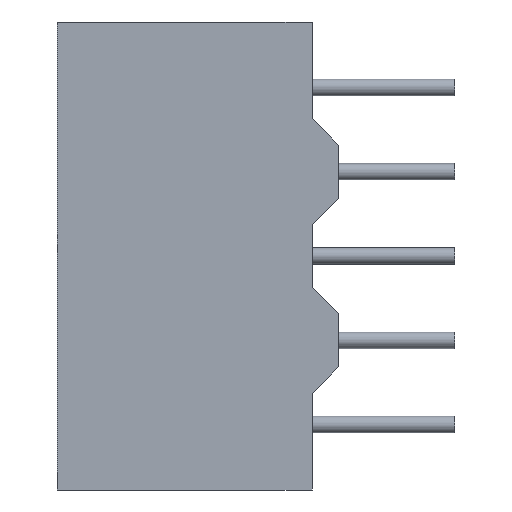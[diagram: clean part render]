
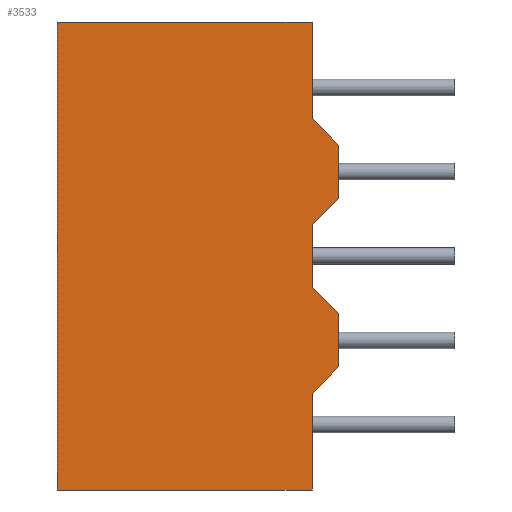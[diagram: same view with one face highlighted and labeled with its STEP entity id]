
A CAD part, left-side view. The second image highlights one B-rep face of the part: STEP entity #3533.
In plain terms, the highlighted planar face has unit normal (-1, 0, 0).
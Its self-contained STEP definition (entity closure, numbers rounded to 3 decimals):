
#404 = AXIS2_PLACEMENT_3D ( 'NONE', #1841, #1857, #1858 ) ;
#746 = EDGE_CURVE ( 'NONE', #3312, #2806, #3697, .T. ) ;
#749 = EDGE_CURVE ( 'NONE', #3460, #3464, #3692, .T. ) ;
#791 = EDGE_CURVE ( 'NONE', #3509, #3522, #3618, .T. ) ;
#805 = EDGE_CURVE ( 'NONE', #2582, #3509, #3596, .T. ) ;
#833 = EDGE_CURVE ( 'NONE', #3464, #3514, #1249, .T. ) ;
#834 = EDGE_CURVE ( 'NONE', #3522, #3196, #1213, .T. ) ;
#840 = EDGE_CURVE ( 'NONE', #3460, #3389, #1201, .T. ) ;
#842 = EDGE_CURVE ( 'NONE', #3389, #2806, #1199, .T. ) ;
#856 = EDGE_CURVE ( 'NONE', #3196, #2882, #1174, .T. ) ;
#857 = EDGE_CURVE ( 'NONE', #2592, #3312, #1171, .T. ) ;
#858 = EDGE_CURVE ( 'NONE', #3514, #2582, #1169, .T. ) ;
#860 = EDGE_CURVE ( 'NONE', #2882, #2592, #1164, .T. ) ;
#1161 = VECTOR ( 'NONE', #4087, 1000. ) ;
#1164 = LINE ( 'NONE', #4086, #1161 ) ;
#1165 = VECTOR ( 'NONE', #4083, 1000. ) ;
#1168 = VECTOR ( 'NONE', #4081, 1000. ) ;
#1169 = LINE ( 'NONE', #4082, #1165 ) ;
#1170 = VECTOR ( 'NONE', #4079, 1000. ) ;
#1171 = LINE ( 'NONE', #4080, #1168 ) ;
#1174 = LINE ( 'NONE', #4078, #1170 ) ;
#1194 = VECTOR ( 'NONE', #4046, 1000. ) ;
#1198 = VECTOR ( 'NONE', #4043, 1000. ) ;
#1199 = LINE ( 'NONE', #2536, #1194 ) ;
#1201 = LINE ( 'NONE', #4041, #1198 ) ;
#1210 = VECTOR ( 'NONE', #4030, 1000. ) ;
#1212 = VECTOR ( 'NONE', #2538, 1000. ) ;
#1213 = LINE ( 'NONE', #2539, #1210 ) ;
#1249 = LINE ( 'NONE', #2527, #1212 ) ;
#1406 = FACE_OUTER_BOUND ( 'NONE', #3996, .T. ) ;
#1824 = CARTESIAN_POINT ( 'NONE',  ( -3.725, 0., 1.74 ) ) ;
#1829 = CARTESIAN_POINT ( 'NONE',  ( -3.725, 0.8, 4.14 ) ) ;
#1837 = CARTESIAN_POINT ( 'NONE',  ( -3.725, 0.8, 0.94 ) ) ;
#1841 = CARTESIAN_POINT ( 'NONE',  ( -3.725, 0., 7.05 ) ) ;
#1851 = PLANE ( 'NONE',  #404 ) ;
#1857 = DIRECTION ( 'NONE',  ( 1., 0., 0. ) ) ;
#1858 = DIRECTION ( 'NONE',  ( 0., 0., -1. ) ) ;
#1995 = CARTESIAN_POINT ( 'NONE',  ( -3.725, 0., 3.34 ) ) ;
#1996 = CARTESIAN_POINT ( 'NONE',  ( -3.725, 0., -3.34 ) ) ;
#2004 = CARTESIAN_POINT ( 'NONE',  ( -3.725, 0.8, -7.05 ) ) ;
#2035 = CARTESIAN_POINT ( 'NONE',  ( -3.725, 0., -1.74 ) ) ;
#2057 = CARTESIAN_POINT ( 'NONE',  ( -3.725, 0.8, -0.94 ) ) ;
#2071 = CARTESIAN_POINT ( 'NONE',  ( -3.725, 0.8, -4.14 ) ) ;
#2082 = CARTESIAN_POINT ( 'NONE',  ( -3.725, 8.48, -7.05 ) ) ;
#2097 = CARTESIAN_POINT ( 'NONE',  ( -3.725, 8.48, 7.05 ) ) ;
#2105 = CARTESIAN_POINT ( 'NONE',  ( -3.725, 0.8, 7.05 ) ) ;
#2185 = CARTESIAN_POINT ( 'NONE',  ( -3.725, 0.8, 7.05 ) ) ;
#2186 = DIRECTION ( 'NONE',  ( 0., 0., -1. ) ) ;
#2197 = CARTESIAN_POINT ( 'NONE',  ( -3.725, 0., 7.05 ) ) ;
#2198 = DIRECTION ( 'NONE',  ( 0., -1., 0. ) ) ;
#2434 = CARTESIAN_POINT ( 'NONE',  ( -3.725, -2.655, 4.395 ) ) ;
#2435 = DIRECTION ( 'NONE',  ( 0., 0.707, -0.707 ) ) ;
#2460 = CARTESIAN_POINT ( 'NONE',  ( -3.725, 0., 7.05 ) ) ;
#2461 = DIRECTION ( 'NONE',  ( 0., 0., -1. ) ) ;
#2527 = CARTESIAN_POINT ( 'NONE',  ( -3.725, 0.8, 7.05 ) ) ;
#2536 = CARTESIAN_POINT ( 'NONE',  ( -3.725, 0., -7.05 ) ) ;
#2538 = DIRECTION ( 'NONE',  ( 0., 0., -1. ) ) ;
#2539 = CARTESIAN_POINT ( 'NONE',  ( -3.725, 0.8, 7.05 ) ) ;
#2582 = VERTEX_POINT ( 'NONE', #1995 ) ;
#2592 = VERTEX_POINT ( 'NONE', #1996 ) ;
#2789 = ORIENTED_EDGE ( 'NONE', *, *, #746, .F. ) ;
#2806 = VERTEX_POINT ( 'NONE', #2004 ) ;
#2882 = VERTEX_POINT ( 'NONE', #2035 ) ;
#2918 = ORIENTED_EDGE ( 'NONE', *, *, #857, .F. ) ;
#2995 = ORIENTED_EDGE ( 'NONE', *, *, #858, .F. ) ;
#2996 = ORIENTED_EDGE ( 'NONE', *, *, #805, .F. ) ;
#2998 = ORIENTED_EDGE ( 'NONE', *, *, #791, .F. ) ;
#3000 = ORIENTED_EDGE ( 'NONE', *, *, #834, .F. ) ;
#3100 = ORIENTED_EDGE ( 'NONE', *, *, #840, .T. ) ;
#3196 = VERTEX_POINT ( 'NONE', #2057 ) ;
#3312 = VERTEX_POINT ( 'NONE', #2071 ) ;
#3322 = ORIENTED_EDGE ( 'NONE', *, *, #833, .F. ) ;
#3352 = ORIENTED_EDGE ( 'NONE', *, *, #860, .F. ) ;
#3367 = ORIENTED_EDGE ( 'NONE', *, *, #749, .F. ) ;
#3389 = VERTEX_POINT ( 'NONE', #2082 ) ;
#3406 = ORIENTED_EDGE ( 'NONE', *, *, #842, .T. ) ;
#3460 = VERTEX_POINT ( 'NONE', #2097 ) ;
#3464 = VERTEX_POINT ( 'NONE', #2105 ) ;
#3473 = ORIENTED_EDGE ( 'NONE', *, *, #856, .F. ) ;
#3509 = VERTEX_POINT ( 'NONE', #1824 ) ;
#3514 = VERTEX_POINT ( 'NONE', #1829 ) ;
#3522 = VERTEX_POINT ( 'NONE', #1837 ) ;
#3533 = ADVANCED_FACE ( 'NONE', ( #1406 ), #1851, .F. ) ;
#3595 = VECTOR ( 'NONE', #2461, 1000. ) ;
#3596 = LINE ( 'NONE', #2460, #3595 ) ;
#3615 = VECTOR ( 'NONE', #2435, 1000. ) ;
#3618 = LINE ( 'NONE', #2434, #3615 ) ;
#3689 = VECTOR ( 'NONE', #2198, 1000. ) ;
#3692 = LINE ( 'NONE', #2197, #3689 ) ;
#3695 = VECTOR ( 'NONE', #2186, 1000. ) ;
#3697 = LINE ( 'NONE', #2185, #3695 ) ;
#3996 = EDGE_LOOP ( 'NONE', ( #3322, #3367, #3100, #3406, #2789, #2918, #3352, #3473, #3000, #2998, #2996, #2995 ) ) ;
#4030 = DIRECTION ( 'NONE',  ( 0., 0., -1. ) ) ;
#4041 = CARTESIAN_POINT ( 'NONE',  ( -3.725, 8.48, 7.05 ) ) ;
#4043 = DIRECTION ( 'NONE',  ( 0., 0., -1. ) ) ;
#4046 = DIRECTION ( 'NONE',  ( 0., -1., 0. ) ) ;
#4078 = CARTESIAN_POINT ( 'NONE',  ( -3.725, 4.395, 2.655 ) ) ;
#4079 = DIRECTION ( 'NONE',  ( 0., -0.707, -0.707 ) ) ;
#4080 = CARTESIAN_POINT ( 'NONE',  ( -3.725, -5.195, 1.855 ) ) ;
#4081 = DIRECTION ( 'NONE',  ( 0., 0.707, -0.707 ) ) ;
#4082 = CARTESIAN_POINT ( 'NONE',  ( -3.725, 1.855, 5.195 ) ) ;
#4083 = DIRECTION ( 'NONE',  ( 0., -0.707, -0.707 ) ) ;
#4086 = CARTESIAN_POINT ( 'NONE',  ( -3.725, 0., 7.05 ) ) ;
#4087 = DIRECTION ( 'NONE',  ( 0., 0., -1. ) ) ;
